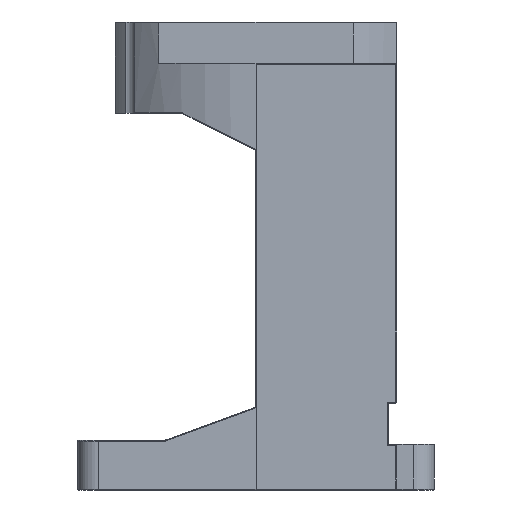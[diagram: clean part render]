
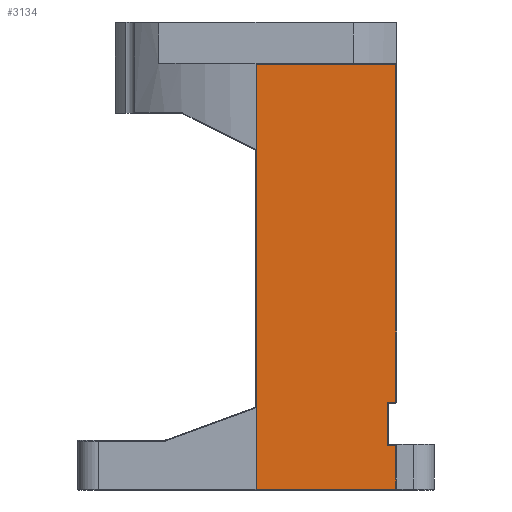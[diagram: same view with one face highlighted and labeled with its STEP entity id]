
A CAD part, left-side view. The second image highlights one B-rep face of the part: STEP entity #3134.
In plain terms, the highlighted planar face has unit normal (-1, 0, 0).
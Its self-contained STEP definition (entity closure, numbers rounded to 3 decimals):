
#114 = CARTESIAN_POINT ( 'NONE',  ( -44., -31.8, 4.8 ) ) ;
#248 = EDGE_CURVE ( 'NONE', #3144, #6313, #7762, .T. ) ;
#273 = CARTESIAN_POINT ( 'NONE',  ( -44., 0., 4.8 ) ) ;
#320 = CARTESIAN_POINT ( 'NONE',  ( -44., -33.8, 0. ) ) ;
#409 = VERTEX_POINT ( 'NONE', #955 ) ;
#500 = VECTOR ( 'NONE', #7978, 1000. ) ;
#594 = LINE ( 'NONE', #320, #5275 ) ;
#599 = ORIENTED_EDGE ( 'NONE', *, *, #1300, .T. ) ;
#657 = DIRECTION ( 'NONE',  ( 0., 1., 0. ) ) ;
#744 = CARTESIAN_POINT ( 'NONE',  ( -44., -33.8, 0. ) ) ;
#766 = VERTEX_POINT ( 'NONE', #2820 ) ;
#906 = CARTESIAN_POINT ( 'NONE',  ( -44., -0.2, -5.8 ) ) ;
#952 = VECTOR ( 'NONE', #6442, 1000. ) ;
#955 = CARTESIAN_POINT ( 'NONE',  ( -44., -33.8, 15.2 ) ) ;
#1022 = EDGE_LOOP ( 'NONE', ( #1076, #4943, #7300, #1165, #5971, #7968, #599, #3810 ) ) ;
#1076 = ORIENTED_EDGE ( 'NONE', *, *, #3868, .T. ) ;
#1148 = LINE ( 'NONE', #744, #952 ) ;
#1165 = ORIENTED_EDGE ( 'NONE', *, *, #248, .T. ) ;
#1300 = EDGE_CURVE ( 'NONE', #3434, #3145, #5293, .T. ) ;
#1421 = LINE ( 'NONE', #2571, #4401 ) ;
#1836 = EDGE_CURVE ( 'NONE', #766, #7517, #594, .T. ) ;
#1932 = CARTESIAN_POINT ( 'NONE',  ( -44., -33.8, 4.8 ) ) ;
#2222 = DIRECTION ( 'NONE',  ( 0., 0., 1. ) ) ;
#2244 = EDGE_CURVE ( 'NONE', #7517, #3144, #2458, .T. ) ;
#2253 = CARTESIAN_POINT ( 'NONE',  ( -44., 0., 96.8 ) ) ;
#2322 = CARTESIAN_POINT ( 'NONE',  ( -44., -33.8, 96.8 ) ) ;
#2378 = LINE ( 'NONE', #6705, #500 ) ;
#2458 = LINE ( 'NONE', #273, #5643 ) ;
#2536 = CARTESIAN_POINT ( 'NONE',  ( -44., -31.8, 0. ) ) ;
#2571 = CARTESIAN_POINT ( 'NONE',  ( -44., -0.2, -6. ) ) ;
#2820 = CARTESIAN_POINT ( 'NONE',  ( -44., -33.8, -5.8 ) ) ;
#3046 = FACE_OUTER_BOUND ( 'NONE', #1022, .T. ) ;
#3134 = ADVANCED_FACE ( 'NONE', ( #3046 ), #3186, .F. ) ;
#3144 = VERTEX_POINT ( 'NONE', #114 ) ;
#3145 = VERTEX_POINT ( 'NONE', #4551 ) ;
#3163 = EDGE_CURVE ( 'NONE', #409, #3434, #1148, .T. ) ;
#3186 = PLANE ( 'NONE',  #6298 ) ;
#3217 = DIRECTION ( 'NONE',  ( 0., 0., -1. ) ) ;
#3434 = VERTEX_POINT ( 'NONE', #2322 ) ;
#3596 = VECTOR ( 'NONE', #6701, 1000. ) ;
#3810 = ORIENTED_EDGE ( 'NONE', *, *, #7526, .T. ) ;
#3831 = CARTESIAN_POINT ( 'NONE',  ( -44., 0., 0. ) ) ;
#3868 = EDGE_CURVE ( 'NONE', #5835, #766, #2378, .T. ) ;
#4127 = CARTESIAN_POINT ( 'NONE',  ( -44., -31.8, 15.2 ) ) ;
#4401 = VECTOR ( 'NONE', #3217, 1000. ) ;
#4462 = DIRECTION ( 'NONE',  ( 1., 0., 0. ) ) ;
#4551 = CARTESIAN_POINT ( 'NONE',  ( -44., -0.2, 96.8 ) ) ;
#4574 = DIRECTION ( 'NONE',  ( 0., -1., 0. ) ) ;
#4602 = LINE ( 'NONE', #5805, #6076 ) ;
#4943 = ORIENTED_EDGE ( 'NONE', *, *, #1836, .T. ) ;
#5275 = VECTOR ( 'NONE', #2222, 1000. ) ;
#5293 = LINE ( 'NONE', #2253, #3596 ) ;
#5356 = DIRECTION ( 'NONE',  ( 0., 1., 0. ) ) ;
#5643 = VECTOR ( 'NONE', #5356, 1000. ) ;
#5805 = CARTESIAN_POINT ( 'NONE',  ( -44., -34., 15.2 ) ) ;
#5835 = VERTEX_POINT ( 'NONE', #906 ) ;
#5971 = ORIENTED_EDGE ( 'NONE', *, *, #6436, .T. ) ;
#6075 = VECTOR ( 'NONE', #7897, 1000. ) ;
#6076 = VECTOR ( 'NONE', #4574, 1000. ) ;
#6298 = AXIS2_PLACEMENT_3D ( 'NONE', #3831, #4462, #657 ) ;
#6313 = VERTEX_POINT ( 'NONE', #4127 ) ;
#6436 = EDGE_CURVE ( 'NONE', #6313, #409, #4602, .T. ) ;
#6442 = DIRECTION ( 'NONE',  ( 0., 0., 1. ) ) ;
#6701 = DIRECTION ( 'NONE',  ( 0., 1., 0. ) ) ;
#6705 = CARTESIAN_POINT ( 'NONE',  ( -44., 0., -5.8 ) ) ;
#7300 = ORIENTED_EDGE ( 'NONE', *, *, #2244, .T. ) ;
#7517 = VERTEX_POINT ( 'NONE', #1932 ) ;
#7526 = EDGE_CURVE ( 'NONE', #3145, #5835, #1421, .T. ) ;
#7762 = LINE ( 'NONE', #2536, #6075 ) ;
#7897 = DIRECTION ( 'NONE',  ( 0., 0., 1. ) ) ;
#7968 = ORIENTED_EDGE ( 'NONE', *, *, #3163, .T. ) ;
#7978 = DIRECTION ( 'NONE',  ( 0., -1., 0. ) ) ;
